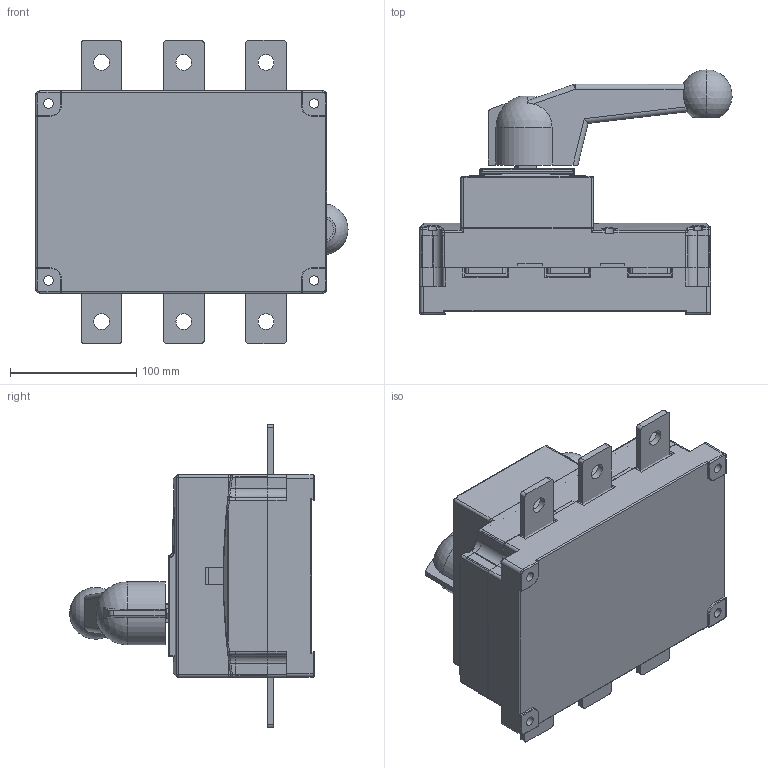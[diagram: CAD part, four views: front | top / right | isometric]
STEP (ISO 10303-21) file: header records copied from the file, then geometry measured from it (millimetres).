
FILE_DESCRIPTION((''),'2;1');
FILE_NAME('NH40-315-3_3P_202403_ASM','2024-04-16T',('zhuanghy'),(''),'CREO PARAMETRIC BY PTC INC, 2018070','CREO PARAMETRIC BY PTC INC, 2018070','');
FILE_SCHEMA(('AUTOMOTIVE_DESIGN { 1 0 10303 214 1 1 1 1 }'));
Length unit declared in the file: millimetre
Products named in the file (9): PRT215_66_1; PRT101_29_1; NH40-630BOCHA_97_1; NH40-315JINGCHUTOU_63_1; ASM0004_ASM_3_ASM_ASM_1_ASM; NH40-315-3_ASM_ASM_1_ASM; NH40-315_630_202107__1; NH40-315-3_3P_201805_ASM_1_ASM; NH40-315-3_3P_202403_ASM
Assembly tree (13 placements, depth 5):
  NH40-315-3_3P_202403_ASM
    NH40-315-3_3P_201805_ASM_1_ASM
      NH40-315-3_ASM_ASM_1_ASM
        ASM0004_ASM_3_ASM_ASM_1_ASM
          PRT215_66_1
          PRT101_29_1
          NH40-630BOCHA_97_1
          NH40-315JINGCHUTOU_63_1  x6
      NH40-315_630_202107__1
Bounding box: 246.93 x 193.5 x 240 mm (x, y, z)
Volume: 3782464 mm3; surface area: 407007.5 mm2
Topology: 10 solids, 10 shells, 863 faces, 2261 edges, 1422 vertices
Faces by surface type: cylinder 353, plane 336, bspline 83, torus 73, sphere 16, cone 2
Entity records: 30811 total; most frequent: CARTESIAN_POINT 11902, ORIENTED_EDGE 3990, DIRECTION 3758, EDGE_CURVE 1995, AXIS2_PLACEMENT_3D 1373, VERTEX_POINT 1252, VECTOR 1012, LINE 1012
